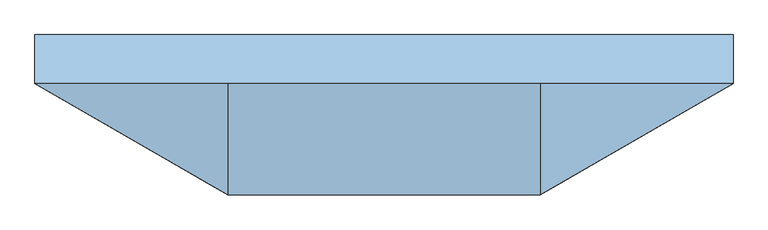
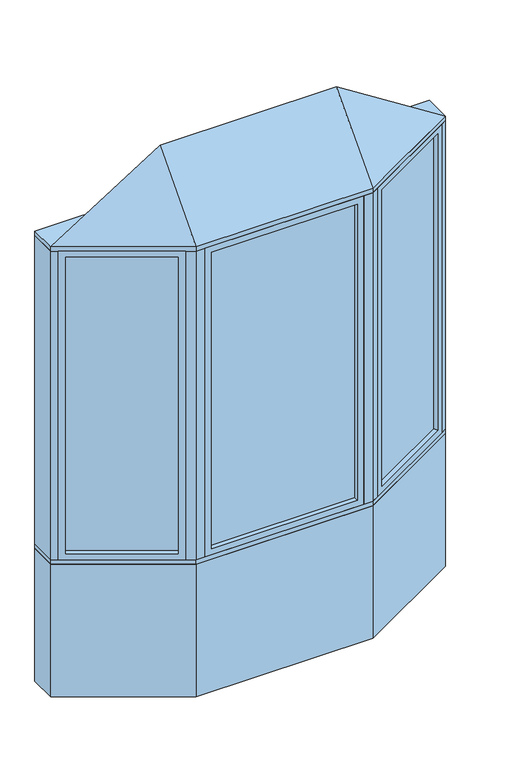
"""IFC4 building model written with IfcOpenShell, lengths in millimetres: window geometry, Pollard_Windows_Tudor Casement Bows and Bays : AML-BAY 30 AFR0518-12-600."""

from ifc_helpers import new_model, si_unit, frame, origin, origin_with_axes, place, context, project, spatial, polyline, outline, extrude, faceted_brep, source, transform, mapped, element, save


def window_0452c5f0(model_context):
    return source(origin(), model_context, "Body", "SolidModel", [
        extrude(outline(polyline([(1026.612102, -82.0482469), (538.3834764, -363.9271754), (535.8434764, -359.5277664), (1024.072102, -77.6488379), (1026.612102, -82.0482469)])), frame((0.0, 0.0, 823.1628), z_axis=(0.0, 0.0, 1.0), x_axis=(1.0, 0.0, 0.0)), (0.0, 0.0, 1.0), 1753.6704),
        faceted_brep([(1015.6135794, -88.3982469, 835.8628), (1028.3135794, -110.3952922, 835.8628), (1028.3135794, -110.3952922, 2564.1332), (1015.6135794, -88.3982469, 2564.1332), (1024.072102, -77.6488379, 823.1628), (1026.612102, -82.0482469, 823.1628), (1026.612102, -82.0482469, 2576.8332), (1024.072102, -77.6488379, 2576.8332), (1000.3735794, -62.0017926, 835.8628), (1013.0735794, -83.9988379, 835.8628), (1013.0735794, -83.9988379, 2564.1332), (1000.3735794, -62.0017926, 2564.1332), (1059.3734073, -92.4628922, 799.998), (1031.4334073, -44.0693926, 799.998), (1031.4334073, -44.0693926, 2599.998), (1059.3734073, -92.4628922, 2599.998), (562.081999, -379.5742207, 2564.1332), (549.381999, -357.5771754, 2564.1332), (538.3834764, -363.9271754, 2576.8332), (535.8434764, -359.5277664, 2576.8332), (546.841999, -353.1777664, 2564.1332), (534.141999, -331.1807211, 2564.1332), (503.0821711, -349.1131211, 2599.998), (531.0221711, -397.5066207, 2599.998), (562.081999, -379.5742207, 835.8628), (549.381999, -357.5771754, 835.8628), (538.3834764, -363.9271754, 823.1628), (535.8434764, -359.5277664, 823.1628), (546.841999, -353.1777664, 835.8628), (534.141999, -331.1807211, 835.8628), (503.0821711, -349.1131211, 799.998), (531.0221711, -397.5066207, 799.998)], [[[0, 1, 2, 3]], [[4, 5, 6, 7]], [[8, 9, 10, 11]], [[12, 13, 14, 15]], [[3, 2, 16, 17]], [[7, 6, 18, 19]], [[11, 10, 20, 21]], [[15, 14, 22, 23]], [[17, 16, 24, 25]], [[19, 18, 26, 27]], [[21, 20, 28, 29]], [[23, 22, 30, 31]], [[25, 24, 1, 0]], [[5, 26, 18, 6], [3, 17, 25, 0]], [[27, 26, 5, 4]], [[7, 19, 27, 4], [9, 28, 20, 10]], [[29, 28, 9, 8]], [[13, 30, 22, 14], [11, 21, 29, 8]], [[31, 30, 13, 12]], [[15, 23, 31, 12], [1, 24, 16, 2]]]),
        extrude(outline(polyline([(-538.3834764, -363.9271754), (-1026.612102, -82.0482469), (-1024.072102, -77.6488379), (-535.8434764, -359.5277664), (-538.3834764, -363.9271754)])), frame((0.0, 0.0, 823.1628), z_axis=(0.0, 0.0, 1.0), x_axis=(1.0, 0.0, 0.0)), (0.0, 0.0, 1.0), 1753.6704),
        faceted_brep([(-546.841999, -353.1777664, 2564.1332), (-534.141999, -331.1807211, 2564.1332), (-534.141999, -331.1807211, 835.8628), (-546.841999, -353.1777664, 835.8628), (-538.3834764, -363.9271754, 2576.8332), (-535.8434764, -359.5277664, 2576.8332), (-535.8434764, -359.5277664, 823.1628), (-538.3834764, -363.9271754, 823.1628), (-562.081999, -379.5742207, 2564.1332), (-549.381999, -357.5771754, 2564.1332), (-549.381999, -357.5771754, 835.8628), (-562.081999, -379.5742207, 835.8628), (-503.0821711, -349.1131211, 2599.998), (-531.0221711, -397.5066207, 2599.998), (-531.0221711, -397.5066207, 799.998), (-503.0821711, -349.1131211, 799.998), (-1000.3735794, -62.0017926, 835.8628), (-1013.0735794, -83.9988379, 835.8628), (-1024.072102, -77.6488379, 823.1628), (-1026.612102, -82.0482469, 823.1628), (-1015.6135794, -88.3982469, 835.8628), (-1028.3135794, -110.3952922, 835.8628), (-1059.3734073, -92.4628922, 799.998), (-1031.4334073, -44.0693926, 799.998), (-1000.3735794, -62.0017926, 2564.1332), (-1013.0735794, -83.9988379, 2564.1332), (-1024.072102, -77.6488379, 2576.8332), (-1026.612102, -82.0482469, 2576.8332), (-1015.6135794, -88.3982469, 2564.1332), (-1028.3135794, -110.3952922, 2564.1332), (-1059.3734073, -92.4628922, 2599.998), (-1031.4334073, -44.0693926, 2599.998)], [[[0, 1, 2, 3]], [[4, 5, 6, 7]], [[8, 9, 10, 11]], [[12, 13, 14, 15]], [[3, 2, 16, 17]], [[7, 6, 18, 19]], [[11, 10, 20, 21]], [[15, 14, 22, 23]], [[17, 16, 24, 25]], [[19, 18, 26, 27]], [[21, 20, 28, 29]], [[23, 22, 30, 31]], [[15, 23, 31, 12], [1, 24, 16, 2]], [[25, 24, 1, 0]], [[5, 26, 18, 6], [3, 17, 25, 0]], [[27, 26, 5, 4]], [[7, 19, 27, 4], [9, 28, 20, 10]], [[29, 28, 9, 8]], [[13, 30, 22, 14], [11, 21, 29, 8]], [[31, 30, 13, 12]]]),
        extrude(outline(polyline([(414.5561009, -397.1066207), (-414.5561009, -397.1066207), (-414.5561009, -392.0266207), (414.5561009, -392.0266207), (414.5561009, -397.1066207)])), frame((0.0, 0.0, 823.1628), z_axis=(0.0, 0.0, 1.0), x_axis=(1.0, 0.0, 0.0)), (0.0, 0.0, 1.0), 1753.6704),
        faceted_brep([(401.8561009, -397.1066207, 835.8628), (401.8561009, -422.5066207, 835.8628), (401.8561009, -422.5066207, 2564.1332), (401.8561009, -397.1066207, 2564.1332), (414.5561009, -392.0266207, 823.1628), (414.5561009, -397.1066207, 823.1628), (414.5561009, -397.1066207, 2576.8332), (414.5561009, -392.0266207, 2576.8332), (401.8561009, -366.6266207, 835.8628), (401.8561009, -392.0266207, 835.8628), (401.8561009, -392.0266207, 2564.1332), (401.8561009, -366.6266207, 2564.1332), (437.7209009, -422.5066207, 799.998), (437.7209009, -366.6266207, 799.998), (437.7209009, -366.6266207, 2599.998), (437.7209009, -422.5066207, 2599.998), (-401.8561009, -422.5066207, 2564.1332), (-401.8561009, -397.1066207, 2564.1332), (-414.5561009, -397.1066207, 2576.8332), (-414.5561009, -392.0266207, 2576.8332), (-401.8561009, -392.0266207, 2564.1332), (-401.8561009, -366.6266207, 2564.1332), (-437.7209009, -366.6266207, 2599.998), (-437.7209009, -422.5066207, 2599.998), (-401.8561009, -422.5066207, 835.8628), (-401.8561009, -397.1066207, 835.8628), (-414.5561009, -397.1066207, 823.1628), (-414.5561009, -392.0266207, 823.1628), (-401.8561009, -392.0266207, 835.8628), (-401.8561009, -366.6266207, 835.8628), (-437.7209009, -366.6266207, 799.998), (-437.7209009, -422.5066207, 799.998)], [[[0, 1, 2, 3]], [[4, 5, 6, 7]], [[8, 9, 10, 11]], [[12, 13, 14, 15]], [[3, 2, 16, 17]], [[7, 6, 18, 19]], [[11, 10, 20, 21]], [[15, 14, 22, 23]], [[17, 16, 24, 25]], [[19, 18, 26, 27]], [[21, 20, 28, 29]], [[23, 22, 30, 31]], [[15, 23, 31, 12], [1, 24, 16, 2]], [[25, 24, 1, 0]], [[5, 26, 18, 6], [3, 17, 25, 0]], [[27, 26, 5, 4]], [[7, 19, 27, 4], [9, 28, 20, 10]], [[29, 28, 9, 8]], [[13, 30, 22, 14], [11, 21, 29, 8]], [[31, 30, 13, 12]]]),
        faceted_brep([(1090.0, -74.7806207, 2625.398), (487.7209009, -422.5066207, 2625.398), (-487.7209009, -422.5066207, 2625.398), (-1090.0, -74.7806207, 2625.398), (-487.7209009, -74.7806207, 3006.398), (487.7209009, -74.7806207, 3006.398)], [[[0, 1, 2, 3]], [[3, 2, 4]], [[2, 1, 5, 4]], [[1, 0, 5]], [[0, 3, 4, 5]]]),
        extrude(outline(polyline([(-1090.0, 77.6193793), (1090.0, 77.6193793), (1090.0, -74.7806207), (487.7209009, -422.5066207), (-487.7209009, -422.5066207), (-1090.0, -74.7806207), (-1090.0, 77.6193793)])), frame((0.0, 0.0, 2599.998), z_axis=(0.0, 0.0, 1.0), x_axis=(1.0, 0.0, 0.0)), (0.0, 0.0, 1.0), 25.4),
        extrude(outline(polyline([(-1090.0, -74.7806207), (-1090.0, 77.6193793), (-1049.1645431, 77.6193793), (-1049.1645431, -74.7806207), (-1059.3734073, -92.4628922), (-1090.0, -74.7806207)])), frame((0.0, 0.0, 799.998), z_axis=(0.0, 0.0, 1.0), x_axis=(1.0, 0.0, 0.0)), (0.0, 0.0, 1.0), 1800.0),
        extrude(outline(polyline([(1090.0, 77.6193793), (1090.0, -74.7806207), (1059.3734073, -92.4628922), (1049.1645431, -74.7806207), (1049.1645431, 77.6193793), (1090.0, 77.6193793)])), frame((0.0, 0.0, 799.998), z_axis=(0.0, 0.0, 1.0), x_axis=(1.0, 0.0, 0.0)), (0.0, 0.0, 1.0), 1800.0),
        extrude(outline(polyline([(487.7209009, -422.5066207), (437.7209009, -422.5066207), (437.7209009, -372.5066207), (474.3234413, -372.5066207), (506.0221711, -354.2053505), (531.0221711, -397.5066207), (487.7209009, -422.5066207)])), frame((0.0, 0.0, 799.998), z_axis=(0.0, 0.0, 1.0), x_axis=(1.0, 0.0, 0.0)), (0.0, 0.0, 1.0), 1800.0),
        extrude(outline(polyline([(-487.7209009, -422.5066207), (-531.0221711, -397.5066207), (-506.0221711, -354.2053505), (-474.3234413, -372.5066207), (-437.7209009, -372.5066207), (-437.7209009, -422.5066207), (-487.7209009, -422.5066207)])), frame((0.0, 0.0, 799.998), z_axis=(0.0, 0.0, 1.0), x_axis=(1.0, 0.0, 0.0)), (0.0, 0.0, 1.0), 1800.0),
        extrude(outline(polyline([(-487.7209009, -422.5066207), (-1090.0, -74.7806207), (-1090.0, 77.6193793), (-1049.1645431, 77.6193793), (-446.885444, -270.1066207), (446.885444, -270.1066207), (1049.1645431, 77.6193793), (1090.0, 77.6193793), (1090.0, -74.7806207), (487.7209009, -422.5066207), (-487.7209009, -422.5066207)])), frame((0.0, 0.0, 774.598), z_axis=(0.0, 0.0, 1.0), x_axis=(1.0, 0.0, 0.0)), (0.0, 0.0, 1.0), 25.4),
        extrude(outline(polyline([(-1090.0, -74.7806207), (-1090.0, 77.6193793), (-1049.1645431, 77.6193793), (-446.885444, -270.1066207), (446.885444, -270.1066207), (1049.1645431, 77.6193793), (1090.0, 77.6193793), (1090.0, -74.7806207), (487.7209009, -422.5066207), (-487.7209009, -422.5066207), (-1090.0, -74.7806207)])), origin_with_axes(), (0.0, 0.0, 1.0), 774.598),
    ])


if __name__ == "__main__":
    model = new_model("IFC4")
    model_context = context("Model", 3, world=origin())
    ifc_project = project(units=[si_unit("LENGTHUNIT", "METRE", prefix="MILLI")], contexts=[model_context])
    site = spatial("IfcSite", under=ifc_project)
    building = spatial("IfcBuilding", under=site)
    placement = place(None, origin())
    window_shape = window_0452c5f0(model_context)
    element("IfcWindow", 1, ObjectType="Pollard_Windows_Tudor Casement Bows and Bays : AML-BAY 30 AFR0518-12-600", at=placement, inside=building, context=model_context, shape_type="MappedRepresentation", body=[
        mapped(window_shape, transform((0.0, 0.0, 0.0), x_axis=(1.0, 0.0, 0.0), y_axis=(0.0, 1.0, 0.0), z_axis=(0.0, 0.0, 1.0))),
    ])
    save(model, "model.ifc")
